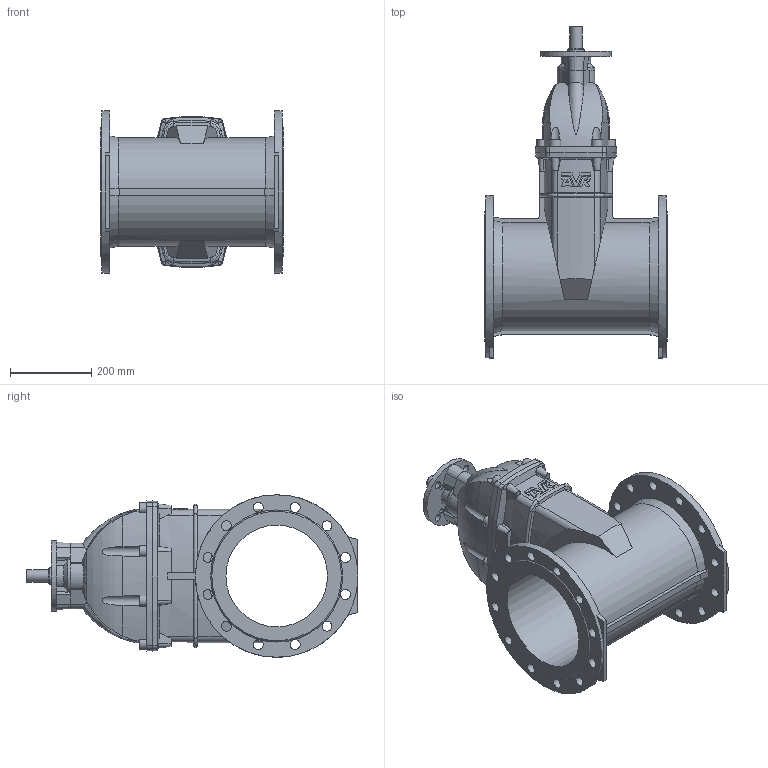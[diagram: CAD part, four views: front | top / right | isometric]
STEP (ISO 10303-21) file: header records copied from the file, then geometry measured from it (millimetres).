
FILE_DESCRIPTION (( 'STEP AP203' ), '1' );
FILE_NAME ('O_15_72_DN250_00_step.STEP', '2015-06-11T03:58:50', ( '' ), ( '' ), 'SwSTEP 2.0', 'SolidWorks 2012', '' );
FILE_SCHEMA (( 'CONFIG_CONTROL_DESIGN' ));
Length unit declared in the file: millimetre
Products named in the file (1): O_15_72_DN250_00_step
Bounding box: 450 x 817 x 400 mm (x, y, z)
Volume: 24259169.1 mm3; surface area: 1522997.5 mm2
Topology: 1 solids, 1 shells, 328 faces, 903 edges, 582 vertices
Faces by surface type: plane 131, cylinder 97, cone 82, torus 18
Full cylindrical faces by diameter (mm): 12 x4, 18 x4, 24.5 x24, 30 x1, 40 x1, 175 x1, 250 x1, 400 x2
Entity records: 11694 total; most frequent: CARTESIAN_POINT 3599, ORIENTED_EDGE 1662, DIRECTION 1652, EDGE_CURVE 831, AXIS2_PLACEMENT_3D 671, VERTEX_POINT 556, EDGE_LOOP 445, FACE_OUTER_BOUND 366
